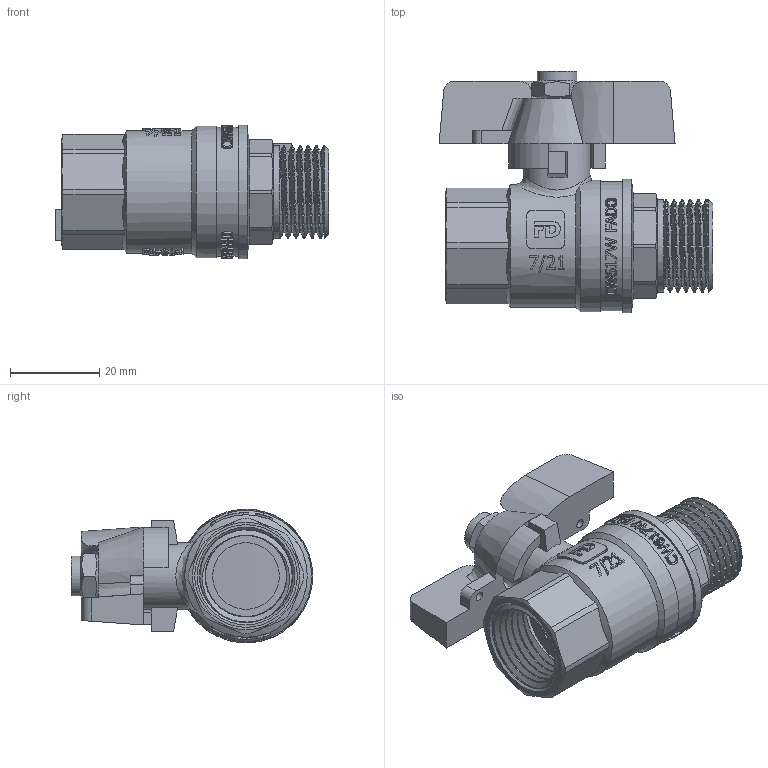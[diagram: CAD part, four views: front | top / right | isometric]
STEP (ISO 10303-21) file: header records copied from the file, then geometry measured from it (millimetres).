
FILE_DESCRIPTION(/* description */ (''),/* implementation_level */ '2;1');
FILE_NAME(/* name */ 'C:\Users\Doom\Desktop\Фадотех\KN1 08.11.2021\KN1 08.11.2021.stp',/* time_stamp */ '2021-12-05T02:16:49+02:00',/* author */ ('Doom'),/* organization */ (''),/* preprocessor_version */ 'ST-DEVELOPER v18',/* originating_system */ 'Autodesk Inventor 2020',/* authorisation */ '');
FILE_SCHEMA (('AUTOMOTIVE_DESIGN { 1 0 10303 214 3 1 1 }'));
Length unit declared in the file: millimetre
Products named in the file (8): KN1 08.11.2021; 5010501048005; KA1 08.11.2021; 22232386; 20642011; KA1 08.11.2021_1; KA2 08.11.2021; DIN 985 - M6
Assembly tree (7 placements, depth 2):
  KN1 08.11.2021
    5010501048005
    KA1 08.11.2021
    22232386
    20642011
    KA1 08.11.2021_1
    KA2 08.11.2021
    DIN 985 - M6
Bounding box: 61.5 x 54.26 x 30 mm (x, y, z)
Volume: 24985.9 mm3; surface area: 28244.6 mm2
Topology: 13 solids, 13 shells, 1597 faces, 4570 edges, 3058 vertices
Faces by surface type: plane 680, bspline 563, cylinder 310, cone 36, torus 7, sphere 1
Full cylindrical faces by diameter (mm): 2 x2, 4.517 x2, 4.917 x1, 8 x1, 8.1 x1, 8.2 x1, 8.9 x1, 10 x1, 10.3 x1, 10.517 x3, 11 x1, 12 x2, 12.5 x1, 13 x1, 15 x4, 15.5 x1, 17 x1, 18.21 x8, 20.9 x3, 21 x2, 23.017 x8, 23.049 x1, 24.5 x2, 24.517 x2, 26 x7, 26.5 x1, 27.5 x1, 29 x1, 29.5 x1, 30 x1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
Entity records: 97950 total; most frequent: CARTESIAN_POINT 61926, ORIENTED_EDGE 9100, DIRECTION 4805, EDGE_CURVE 4550, VERTEX_POINT 3049, B_SPLINE_CURVE_WITH_KNOTS 2408, EDGE_LOOP 1697, AXIS2_PLACEMENT_3D 1685
